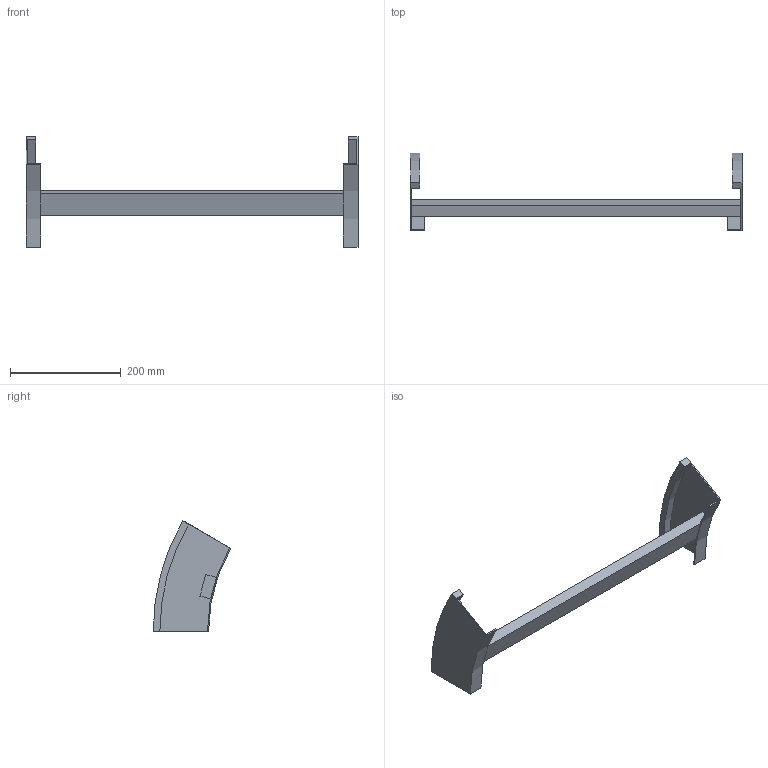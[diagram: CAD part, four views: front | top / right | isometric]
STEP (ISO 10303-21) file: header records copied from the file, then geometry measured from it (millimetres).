
FILE_DESCRIPTION (( 'STEP AP214' ), '1' );
FILE_NAME ('B2_35B3D600.step', '2025-02-21T14:46:57', ( '' ), ( '' ), 'SwSTEP 2.0', 'SolidWorks 2023', '' );
FILE_SCHEMA (( 'AUTOMOTIVE_DESIGN' ));
Length unit declared in the file: millimetre
Products named in the file (3): B2_35B3D600; TRAVERSINO_600; B2_LONGH.DISCESA_30°_H100_R300
Assembly tree (3 placements, depth 2):
  B2_35B3D600
    B2_LONGH.DISCESA_30°_H100_R300  x2
    TRAVERSINO_600
Bounding box: 600 x 140.19 x 200 mm (x, y, z)
Volume: 651042.6 mm3; surface area: 179237.3 mm2
Topology: 3 solids, 3 shells, 26 faces, 60 edges, 40 vertices
Faces by surface type: plane 18, cylinder 8
Entity records: 544 total; most frequent: DIRECTION 88, CARTESIAN_POINT 82, ORIENTED_EDGE 72, EDGE_CURVE 36, AXIS2_PLACEMENT_3D 30, LINE 28, VECTOR 28, VERTEX_POINT 24
